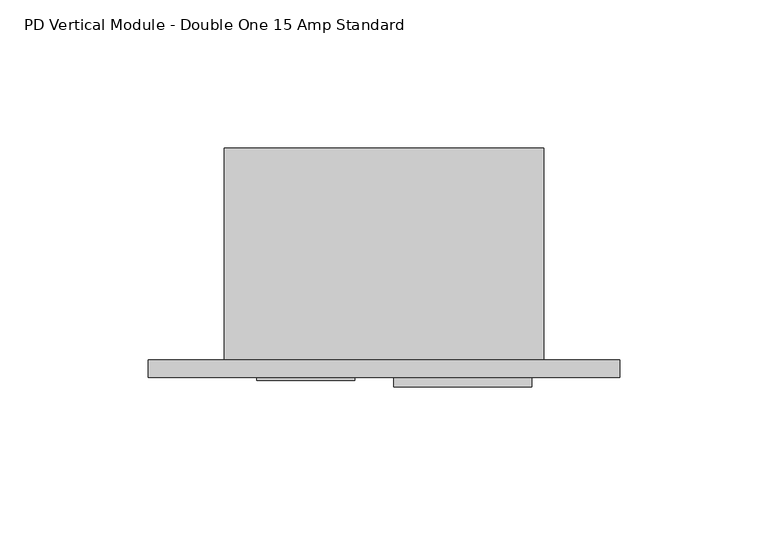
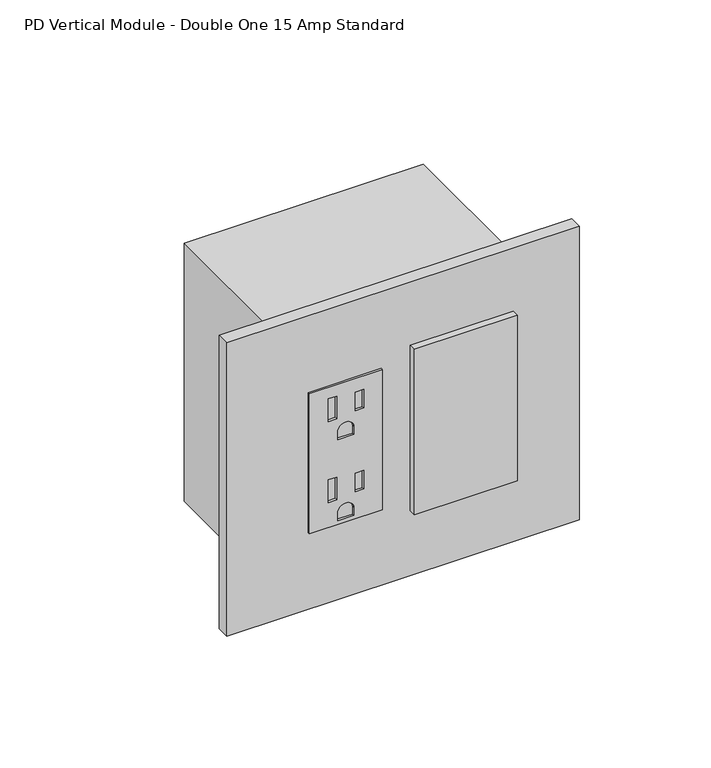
"""IFC4 building model written with IfcOpenShell, lengths in millimetres: proxy geometry, Electrical-Teknion-EPDMD_Vertical_Power_Data_Double-R2019 : PD Vertical Module - Double One 15 Amp Standard."""

from ifc_helpers import new_model, si_unit, point, frame, frame_2d, origin, place, context, project, spatial, polyline, circle_curve, trimmed, segment, composite_curve, outline, extrude, source, transform, mapped, element, save


def pd_vertical_module_double_one_15_amp_standard_ac9b215e(model_context):
    return source(origin(), model_context, "Body", "SweptSolid", [
        extrude(outline(polyline([(414.3876229, 44.0944), (414.3876229, 11.0998), (347.4332229, 11.0998), (347.4332229, 44.0944), (414.3876229, 44.0944)]), holes=[polyline([(409.0028229, 23.4442), (398.1824229, 23.4442), (398.1824229, 19.6088), (409.0028229, 19.6088), (409.0028229, 23.4442)]), polyline([(408.0249229, 35.6108), (399.1603229, 35.6108), (399.1603229, 31.7754), (408.0249229, 31.7754), (408.0249229, 35.6108)]), composite_curve([segment(polyline([(387.9970229, 31.2293), (387.9970229, 23.9649), (391.6292229, 23.9649)]), True, "CONTINUOUS"), segment(trimmed(circle_curve(frame_2d((391.6292229, 27.5971)), 3.6322), [point((391.6292229, 23.9649))], [point((391.6292229, 31.2293))], True, "CARTESIAN"), True, "CONTINUOUS"), segment(polyline([(391.6292229, 31.2293), (387.9970229, 31.2293)]), True, "CONTINUOUS")], self_intersect=False), polyline([(370.2678229, 23.4442), (359.4474229, 23.4442), (359.4474229, 19.6088), (370.2678229, 19.6088), (370.2678229, 23.4442)]), polyline([(369.2899229, 35.6108), (360.4253229, 35.6108), (360.4253229, 31.7754), (369.2899229, 31.7754), (369.2899229, 35.6108)]), composite_curve([segment(polyline([(349.2620229, 31.2293), (349.2620229, 23.9649), (352.8942229, 23.9649)]), True, "CONTINUOUS"), segment(trimmed(circle_curve(frame_2d((352.8942229, 27.5971)), 3.6322), [point((352.8942229, 23.9649))], [point((352.8942229, 31.2293))], True, "CARTESIAN"), True, "CONTINUOUS"), segment(polyline([(352.8942229, 31.2293), (349.2620229, 31.2293)]), True, "CONTINUOUS")], self_intersect=False)]), frame((0.0, -6.9294746, 0.0), z_axis=(0.0, 1.0, 0.0), x_axis=(0.0, 0.0, 1.0)), (0.0, 0.0, 1.0), 1.0366746),
        extrude(outline(polyline([(57.3278, -5.8928), (103.8606, -5.8928), (103.8606, -9.0678), (57.3278, -9.0678), (57.3278, -5.8928)])), frame((0.0, 0.0, 341.7026971), z_axis=(0.0, 0.0, 1.0), x_axis=(1.0, 0.0, 0.0)), (0.0, 0.0, 1.0), 79.0448),
        extrude(outline(polyline([(-25.6794, 0.0), (133.7056, 0.0), (133.7056, -5.8928), (-25.6794, -5.8928), (-25.6794, 0.0)])), frame((0.0, 0.0, 310.7302229), z_axis=(0.0, 0.0, 1.0), x_axis=(1.0, 0.0, 0.0)), (0.0, 0.0, 1.0), 140.3604),
        extrude(outline(polyline([(108.0262, 0.0), (0.0, 0.0), (0.0, 71.7296), (108.0262, 71.7296), (108.0262, 0.0)])), frame((0.0, 0.0, 319.1630229), z_axis=(0.0, 0.0, 1.0), x_axis=(1.0, 0.0, 0.0)), (0.0, 0.0, 1.0), 123.4948),
    ])


if __name__ == "__main__":
    model = new_model("IFC4")
    model_context = context("Model", 3, world=origin())
    ifc_project = project(units=[si_unit("LENGTHUNIT", "METRE", prefix="MILLI")], contexts=[model_context])
    site = spatial("IfcSite", under=ifc_project)
    building = spatial("IfcBuilding", under=site)
    placement = place(None, origin())
    pd_vertical_module_double_one_15_amp_standard_shape = pd_vertical_module_double_one_15_amp_standard_ac9b215e(model_context)
    element("IfcBuildingElementProxy", 1, Name="Electrical-Teknion-EPDMD_Vertical_Power_Data_Double-R2019 : PD Vertical Module - Double One 15 Amp Standard", ObjectType="Electrical-Teknion-EPDMD_Vertical_Power_Data_Double-R2019 : PD Vertical Module - Double One 15 Amp Standard", at=placement, inside=building, context=model_context, shape_type="MappedRepresentation", body=[
        mapped(pd_vertical_module_double_one_15_amp_standard_shape, transform((0.0, 0.0, 0.0), x_axis=(1.0, 0.0, 0.0), y_axis=(0.0, 1.0, 0.0), z_axis=(0.0, 0.0, 1.0))),
    ])
    save(model, "model.ifc")
